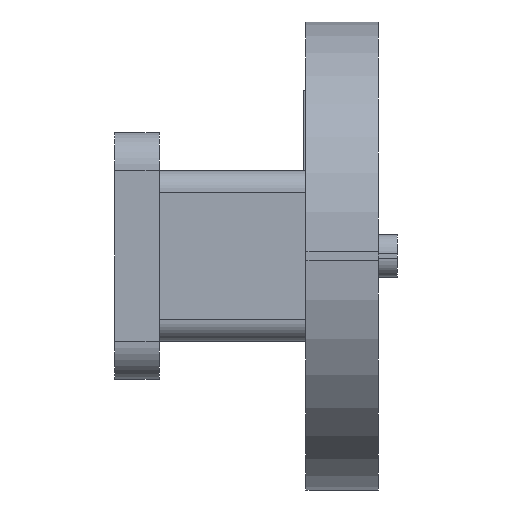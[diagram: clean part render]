
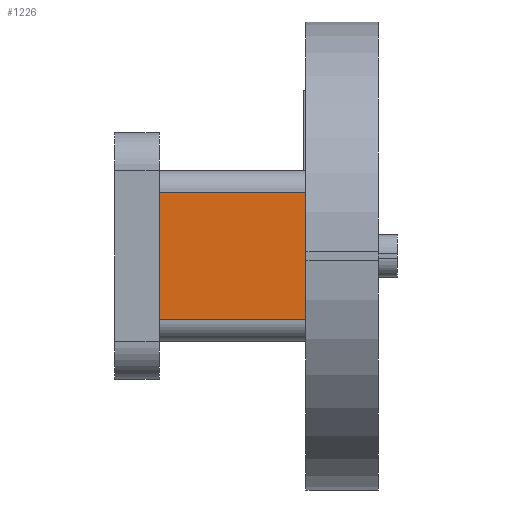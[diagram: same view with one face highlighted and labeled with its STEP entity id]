
A CAD part, front view. The second image highlights one B-rep face of the part: STEP entity #1226.
In plain terms, the highlighted planar face has unit normal (0, -1, 0).
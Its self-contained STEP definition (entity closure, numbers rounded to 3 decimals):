
#40=PLANE('',#1342);
#92=FACE_OUTER_BOUND('',#164,.T.);
#164=EDGE_LOOP('',(#987,#988,#989,#990));
#258=LINE('',#1944,#382);
#271=LINE('',#1982,#395);
#273=LINE('',#1989,#397);
#274=LINE('',#1990,#398);
#382=VECTOR('',#1556,1.);
#395=VECTOR('',#1597,1.);
#397=VECTOR('',#1605,1.);
#398=VECTOR('',#1606,1.);
#569=VERTEX_POINT('',#1941);
#570=VERTEX_POINT('',#1943);
#581=VERTEX_POINT('',#1980);
#583=VERTEX_POINT('',#1988);
#709=EDGE_CURVE('',#569,#570,#258,.T.);
#728=EDGE_CURVE('',#570,#581,#271,.T.);
#731=EDGE_CURVE('',#583,#581,#273,.T.);
#732=EDGE_CURVE('',#569,#583,#274,.T.);
#987=ORIENTED_EDGE('',*,*,#731,.T.);
#988=ORIENTED_EDGE('',*,*,#728,.F.);
#989=ORIENTED_EDGE('',*,*,#709,.F.);
#990=ORIENTED_EDGE('',*,*,#732,.T.);
#1226=ADVANCED_FACE('',(#92),#40,.T.);
#1342=AXIS2_PLACEMENT_3D('',#1987,#1603,#1604);
#1556=DIRECTION('',(0.,0.,-1.));
#1597=DIRECTION('',(-1.,0.,0.));
#1603=DIRECTION('center_axis',(0.,-1.,0.));
#1604=DIRECTION('ref_axis',(0.,0.,1.));
#1605=DIRECTION('',(0.,0.,-1.));
#1606=DIRECTION('',(-1.,0.,0.));
#1941=CARTESIAN_POINT('',(39.3,-13.4,-10.5));
#1943=CARTESIAN_POINT('',(39.3,-13.4,-13.5));
#1944=CARTESIAN_POINT('',(39.3,-13.4,-12.75));
#1980=CARTESIAN_POINT('',(35.85,-13.4,-13.5));
#1982=CARTESIAN_POINT('',(39.5,-13.4,-13.5));
#1987=CARTESIAN_POINT('Origin',(39.5,-13.4,-13.5));
#1988=CARTESIAN_POINT('',(35.85,-13.4,-10.5));
#1989=CARTESIAN_POINT('',(35.85,-13.4,-12.75));
#1990=CARTESIAN_POINT('',(39.5,-13.4,-10.5));
